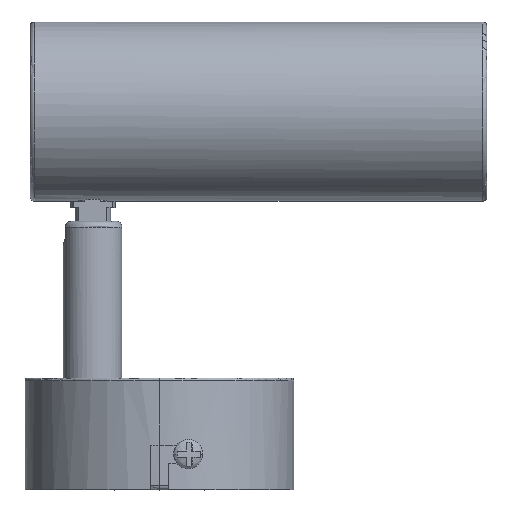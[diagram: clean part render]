
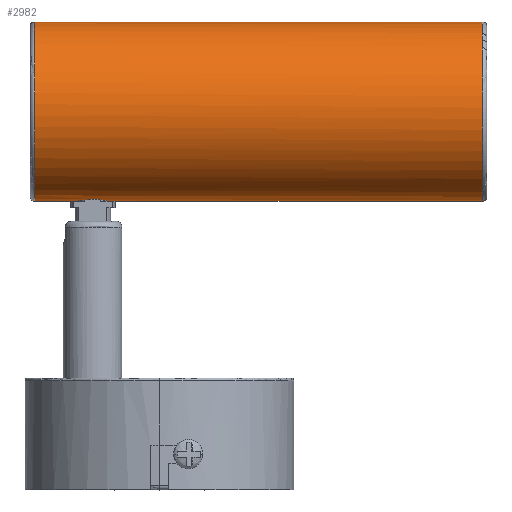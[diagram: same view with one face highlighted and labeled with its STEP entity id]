
A CAD part, left-side view. The second image highlights one B-rep face of the part: STEP entity #2982.
In plain terms, the highlighted cylindrical face has radius 20 mm (diameter 40 mm), a partial arc.
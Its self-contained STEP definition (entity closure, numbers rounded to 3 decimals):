
#187=FACE_OUTER_BOUND('',#359,.T.);
#359=EDGE_LOOP('',(#2123,#2124,#2125,#2126,#2127,#2128));
#535=B_SPLINE_CURVE_WITH_KNOTS('',3,(#5067,#5068,#5069,#5070,#5071,#5072,
#5073),.UNSPECIFIED.,.F.,.F.,(4,1,1,1,4),(0.,0.25,0.5,0.75,1.),
 .UNSPECIFIED.);
#536=B_SPLINE_CURVE_WITH_KNOTS('',3,(#5077,#5078,#5079,#5080,#5081,#5082,
#5083,#5084,#5085,#5086,#5087,#5088,#5089,#5090,#5091,#5092,#5093,#5094,
#5095,#5096,#5097,#5098,#5099,#5100,#5101,#5102,#5103,#5104,#5105,#5106,
#5107,#5108,#5109,#5110,#5111),.UNSPECIFIED.,.F.,.F.,(4,2,2,2,2,2,2,2,3,
2,2,2,2,2,2,2,4),(-5.997,-5.247,-4.498,
-3.748,-2.999,-2.249,-1.499,
-0.75,0.,0.75,1.499,
2.249,2.999,3.748,4.498,5.247,
5.997),.UNSPECIFIED.);
#537=B_SPLINE_CURVE_WITH_KNOTS('',3,(#5115,#5116,#5117,#5118,#5119,#5120,
#5121),.UNSPECIFIED.,.F.,.F.,(4,1,1,1,4),(0.,0.25,0.5,0.75,1.),
 .UNSPECIFIED.);
#700=LINE('',#5075,#896);
#701=LINE('',#5113,#897);
#702=LINE('',#5122,#898);
#896=VECTOR('',#3537,304.8);
#897=VECTOR('',#3538,304.8);
#898=VECTOR('',#3539,304.8);
#1221=VERTEX_POINT('',#5065);
#1222=VERTEX_POINT('',#5066);
#1223=VERTEX_POINT('',#5074);
#1224=VERTEX_POINT('',#5076);
#1225=VERTEX_POINT('',#5112);
#1226=VERTEX_POINT('',#5114);
#1561=EDGE_CURVE('',#1221,#1222,#535,.T.);
#1562=EDGE_CURVE('',#1223,#1221,#700,.T.);
#1563=EDGE_CURVE('',#1224,#1223,#536,.T.);
#1564=EDGE_CURVE('',#1225,#1224,#701,.T.);
#1565=EDGE_CURVE('',#1226,#1225,#537,.T.);
#1566=EDGE_CURVE('',#1222,#1226,#702,.T.);
#2123=ORIENTED_EDGE('',*,*,#1561,.F.);
#2124=ORIENTED_EDGE('',*,*,#1562,.F.);
#2125=ORIENTED_EDGE('',*,*,#1563,.F.);
#2126=ORIENTED_EDGE('',*,*,#1564,.F.);
#2127=ORIENTED_EDGE('',*,*,#1565,.F.);
#2128=ORIENTED_EDGE('',*,*,#1566,.F.);
#2901=CYLINDRICAL_SURFACE('',#3179,20.);
#2982=ADVANCED_FACE('',(#187),#2901,.T.);
#3179=AXIS2_PLACEMENT_3D('',#5064,#3535,#3536);
#3535=DIRECTION('center_axis',(-1.,0.,0.));
#3536=DIRECTION('ref_axis',(0.,0.,
1.));
#3537=DIRECTION('',(-1.,0.,0.));
#3538=DIRECTION('',(-1.,0.,0.));
#3539=DIRECTION('',(1.,0.,0.));
#5064=CARTESIAN_POINT('Origin',(1411.604,0.,84.5));
#5065=CARTESIAN_POINT('',(-12.943,0.,64.5));
#5066=CARTESIAN_POINT('',(-12.943,0.,104.5));
#5067=CARTESIAN_POINT('Ctrl Pts',(-12.943,0.,
64.5));
#5068=CARTESIAN_POINT('Ctrl Pts',(-12.943,-5.523,64.151));
#5069=CARTESIAN_POINT('Ctrl Pts',(-12.943,-15.523,68.977));
#5070=CARTESIAN_POINT('Ctrl Pts',(-12.943,-22.239,84.5));
#5071=CARTESIAN_POINT('Ctrl Pts',(-12.943,-15.523,100.023));
#5072=CARTESIAN_POINT('Ctrl Pts',(-12.943,-5.523,104.849));
#5073=CARTESIAN_POINT('Ctrl Pts',(-12.943,0.,
104.5));
#5074=CARTESIAN_POINT('',(-3.904,0.,64.5));
#5075=CARTESIAN_POINT('',(-3.904,0.,64.5));
#5076=CARTESIAN_POINT('',(4.033,0.,64.5));
#5077=CARTESIAN_POINT('Ctrl Pts',(4.033,0.,
64.5));
#5078=CARTESIAN_POINT('Ctrl Pts',(4.033,-0.25,64.5));
#5079=CARTESIAN_POINT('Ctrl Pts',(4.009,-0.508,64.505));
#5080=CARTESIAN_POINT('Ctrl Pts',(3.908,-1.021,64.524));
#5081=CARTESIAN_POINT('Ctrl Pts',(3.831,-1.276,64.539));
#5082=CARTESIAN_POINT('Ctrl Pts',(3.629,-1.765,64.576));
#5083=CARTESIAN_POINT('Ctrl Pts',(3.503,-1.999,64.599));
#5084=CARTESIAN_POINT('Ctrl Pts',(3.211,-2.432,64.647));
#5085=CARTESIAN_POINT('Ctrl Pts',(3.046,-2.63,64.673));
#5086=CARTESIAN_POINT('Ctrl Pts',(2.695,-2.982,64.723));
#5087=CARTESIAN_POINT('Ctrl Pts',(2.496,-3.147,64.749));
#5088=CARTESIAN_POINT('Ctrl Pts',(2.063,-3.438,64.797));
#5089=CARTESIAN_POINT('Ctrl Pts',(1.829,-3.564,64.82));
#5090=CARTESIAN_POINT('Ctrl Pts',(1.341,-3.767,64.858));
#5091=CARTESIAN_POINT('Ctrl Pts',(1.086,-3.844,64.873));
#5092=CARTESIAN_POINT('Ctrl Pts',(0.572,-3.945,64.893));
#5093=CARTESIAN_POINT('Ctrl Pts',(0.314,-3.969,64.898));
#5094=CARTESIAN_POINT('Ctrl Pts',(0.064,-3.969,
64.898));
#5095=CARTESIAN_POINT('Ctrl Pts',(-0.186,-3.969,
64.898));
#5096=CARTESIAN_POINT('Ctrl Pts',(-0.444,-3.945,64.893));
#5097=CARTESIAN_POINT('Ctrl Pts',(-0.957,-3.844,
64.873));
#5098=CARTESIAN_POINT('Ctrl Pts',(-1.212,-3.767,64.858));
#5099=CARTESIAN_POINT('Ctrl Pts',(-1.701,-3.564,64.82));
#5100=CARTESIAN_POINT('Ctrl Pts',(-1.935,-3.438,64.797));
#5101=CARTESIAN_POINT('Ctrl Pts',(-2.367,-3.147,64.749));
#5102=CARTESIAN_POINT('Ctrl Pts',(-2.566,-2.982,64.723));
#5103=CARTESIAN_POINT('Ctrl Pts',(-2.918,-2.63,64.673));
#5104=CARTESIAN_POINT('Ctrl Pts',(-3.083,-2.432,64.647));
#5105=CARTESIAN_POINT('Ctrl Pts',(-3.374,-1.999,64.599));
#5106=CARTESIAN_POINT('Ctrl Pts',(-3.5,-1.765,64.576));
#5107=CARTESIAN_POINT('Ctrl Pts',(-3.703,-1.276,64.539));
#5108=CARTESIAN_POINT('Ctrl Pts',(-3.78,-1.021,64.524));
#5109=CARTESIAN_POINT('Ctrl Pts',(-3.88,-0.508,64.505));
#5110=CARTESIAN_POINT('Ctrl Pts',(-3.904,-0.25,64.5));
#5111=CARTESIAN_POINT('Ctrl Pts',(-3.904,0.,
64.5));
#5112=CARTESIAN_POINT('',(87.072,0.,64.5));
#5113=CARTESIAN_POINT('',(87.072,0.,64.5));
#5114=CARTESIAN_POINT('',(87.072,0.,104.5));
#5115=CARTESIAN_POINT('Ctrl Pts',(87.072,0.,
104.5));
#5116=CARTESIAN_POINT('Ctrl Pts',(87.072,-5.523,104.849));
#5117=CARTESIAN_POINT('Ctrl Pts',(87.072,-15.523,100.023));
#5118=CARTESIAN_POINT('Ctrl Pts',(87.072,-22.239,84.5));
#5119=CARTESIAN_POINT('Ctrl Pts',(87.072,-15.523,68.977));
#5120=CARTESIAN_POINT('Ctrl Pts',(87.072,-5.523,64.151));
#5121=CARTESIAN_POINT('Ctrl Pts',(87.072,0.,
64.5));
#5122=CARTESIAN_POINT('',(-12.943,0.,104.5));
